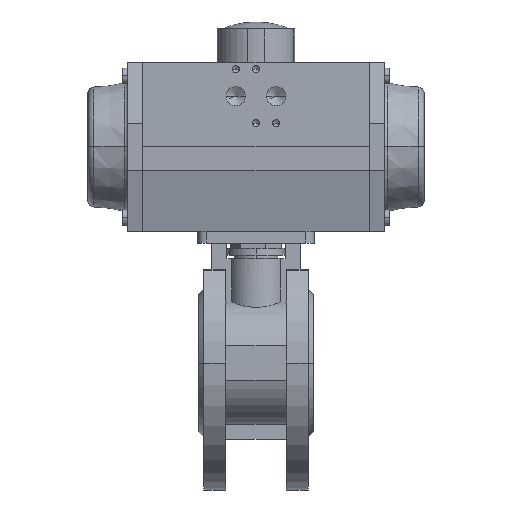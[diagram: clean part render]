
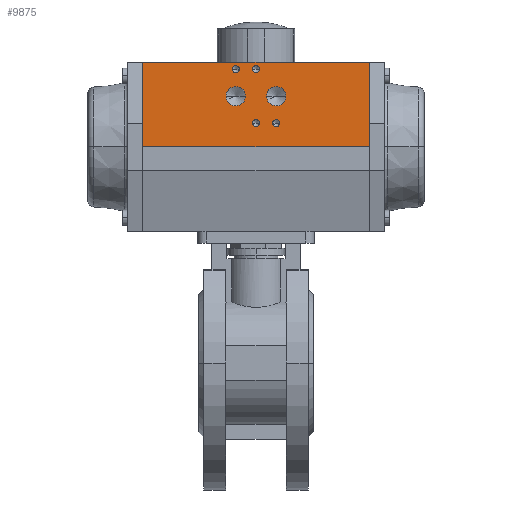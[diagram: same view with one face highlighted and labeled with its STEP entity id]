
A CAD part, top view. The second image highlights one B-rep face of the part: STEP entity #9875.
In plain terms, the highlighted planar face has unit normal (0, 0, 1) as drawn and (1, 0, 0) by its records, which use the part's own axes.
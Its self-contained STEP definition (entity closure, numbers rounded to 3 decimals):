
#696 = LINE ( 'NONE', #697, #7546 ) ;
#697 = CARTESIAN_POINT ( 'NONE',  ( 49.5, 50., -67. ) ) ;
#698 = DIRECTION ( 'NONE',  ( 0., 0., 1. ) ) ;
#701 = CARTESIAN_POINT ( 'NONE',  ( 49.5, 46., 12. ) ) ;
#702 = DIRECTION ( 'NONE',  ( 1., 0., 0. ) ) ;
#703 = DIRECTION ( 'NONE',  ( 0., 0., -1. ) ) ;
#704 = CARTESIAN_POINT ( 'NONE',  ( 49.5, 14., -12. ) ) ;
#705 = DIRECTION ( 'NONE',  ( 1., 0., 0. ) ) ;
#706 = DIRECTION ( 'NONE',  ( 0., 0., -1. ) ) ;
#707 = CARTESIAN_POINT ( 'NONE',  ( 49.5, 14., 0. ) ) ;
#708 = DIRECTION ( 'NONE',  ( 1., 0., 0. ) ) ;
#709 = DIRECTION ( 'NONE',  ( 0., 0., -1. ) ) ;
#710 = CARTESIAN_POINT ( 'NONE',  ( 49.5, 46., 0. ) ) ;
#711 = DIRECTION ( 'NONE',  ( 1., 0., 0. ) ) ;
#712 = DIRECTION ( 'NONE',  ( 0., 0., -1. ) ) ;
#713 = LINE ( 'NONE', #714, #7531 ) ;
#714 = CARTESIAN_POINT ( 'NONE',  ( 49.5, 0., 67. ) ) ;
#715 = CARTESIAN_POINT ( 'NONE',  ( 49.5, 30., -12. ) ) ;
#716 = DIRECTION ( 'NONE',  ( 1., 0., 0. ) ) ;
#717 = DIRECTION ( 'NONE',  ( 0., 0., -1. ) ) ;
#718 = LINE ( 'NONE', #728, #7529 ) ;
#719 = LINE ( 'NONE', #725, #7544 ) ;
#720 = CARTESIAN_POINT ( 'NONE',  ( 49.5, 30., 12. ) ) ;
#721 = DIRECTION ( 'NONE',  ( 1., 0., 0. ) ) ;
#722 = DIRECTION ( 'NONE',  ( 0., 0., -1. ) ) ;
#724 = DIRECTION ( 'NONE',  ( 0., 1., 0. ) ) ;
#725 = CARTESIAN_POINT ( 'NONE',  ( 49.5, 0., -67. ) ) ;
#727 = DIRECTION ( 'NONE',  ( 0., 0., 1. ) ) ;
#728 = CARTESIAN_POINT ( 'NONE',  ( 49.5, 0., -67. ) ) ;
#729 = DIRECTION ( 'NONE',  ( 0., 1., 0. ) ) ;
#1901 = FACE_BOUND ( 'NONE', #9518, .T. ) ;
#1913 = FACE_BOUND ( 'NONE', #9511, .T. ) ;
#1914 = FACE_BOUND ( 'NONE', #9512, .T. ) ;
#1915 = FACE_BOUND ( 'NONE', #9517, .T. ) ;
#2525 = ORIENTED_EDGE ( 'NONE', *, *, #10340, .T. ) ;
#2526 = ORIENTED_EDGE ( 'NONE', *, *, #10134, .F. ) ;
#2527 = ORIENTED_EDGE ( 'NONE', *, *, #10347, .F. ) ;
#2528 = ORIENTED_EDGE ( 'NONE', *, *, #10128, .F. ) ;
#2529 = ORIENTED_EDGE ( 'NONE', *, *, #10346, .F. ) ;
#2530 = ORIENTED_EDGE ( 'NONE', *, *, #10122, .F. ) ;
#2531 = ORIENTED_EDGE ( 'NONE', *, *, #10345, .F. ) ;
#2532 = ORIENTED_EDGE ( 'NONE', *, *, #10116, .F. ) ;
#2533 = ORIENTED_EDGE ( 'NONE', *, *, #10344, .F. ) ;
#2534 = ORIENTED_EDGE ( 'NONE', *, *, #10110, .F. ) ;
#2535 = ORIENTED_EDGE ( 'NONE', *, *, #10343, .F. ) ;
#2536 = ORIENTED_EDGE ( 'NONE', *, *, #10104, .F. ) ;
#2537 = ORIENTED_EDGE ( 'NONE', *, *, #10342, .F. ) ;
#5783 = VERTEX_POINT ( 'NONE', #12723 ) ;
#5784 = VERTEX_POINT ( 'NONE', #12724 ) ;
#5788 = VERTEX_POINT ( 'NONE', #12728 ) ;
#5789 = VERTEX_POINT ( 'NONE', #12729 ) ;
#5793 = VERTEX_POINT ( 'NONE', #12733 ) ;
#5794 = VERTEX_POINT ( 'NONE', #12734 ) ;
#5798 = VERTEX_POINT ( 'NONE', #12738 ) ;
#5799 = VERTEX_POINT ( 'NONE', #12739 ) ;
#5803 = VERTEX_POINT ( 'NONE', #12743 ) ;
#5804 = VERTEX_POINT ( 'NONE', #12744 ) ;
#5808 = VERTEX_POINT ( 'NONE', #12748 ) ;
#5809 = VERTEX_POINT ( 'NONE', #12749 ) ;
#6019 = VERTEX_POINT ( 'NONE', #11897 ) ;
#6021 = VERTEX_POINT ( 'NONE', #11899 ) ;
#6022 = VERTEX_POINT ( 'NONE', #11900 ) ;
#6027 = VERTEX_POINT ( 'NONE', #11905 ) ;
#6423 = CARTESIAN_POINT ( 'NONE',  ( 49.5, 46., 12. ) ) ;
#6424 = DIRECTION ( 'NONE',  ( 1., 0., 0. ) ) ;
#6425 = DIRECTION ( 'NONE',  ( 0., 0., -1. ) ) ;
#6441 = CARTESIAN_POINT ( 'NONE',  ( 49.5, 14., -12. ) ) ;
#6442 = DIRECTION ( 'NONE',  ( 1., 0., 0. ) ) ;
#6443 = DIRECTION ( 'NONE',  ( 0., 0., -1. ) ) ;
#6459 = CARTESIAN_POINT ( 'NONE',  ( 49.5, 14., 0. ) ) ;
#6460 = DIRECTION ( 'NONE',  ( 1., 0., 0. ) ) ;
#6461 = DIRECTION ( 'NONE',  ( 0., 0., -1. ) ) ;
#6477 = CARTESIAN_POINT ( 'NONE',  ( 49.5, 46., 0. ) ) ;
#6478 = DIRECTION ( 'NONE',  ( 1., 0., 0. ) ) ;
#6479 = DIRECTION ( 'NONE',  ( 0., 0., -1. ) ) ;
#6495 = CARTESIAN_POINT ( 'NONE',  ( 49.5, 30., -12. ) ) ;
#6496 = DIRECTION ( 'NONE',  ( 1., 0., 0. ) ) ;
#6497 = DIRECTION ( 'NONE',  ( 0., 0., -1. ) ) ;
#6513 = CARTESIAN_POINT ( 'NONE',  ( 49.5, 30., 12. ) ) ;
#6514 = DIRECTION ( 'NONE',  ( 1., 0., 0. ) ) ;
#6515 = DIRECTION ( 'NONE',  ( 0., 0., -1. ) ) ;
#7529 = VECTOR ( 'NONE', #729, 1000. ) ;
#7530 = AXIS2_PLACEMENT_3D ( 'NONE', #720, #721, #722 ) ;
#7531 = VECTOR ( 'NONE', #724, 1000. ) ;
#7534 = AXIS2_PLACEMENT_3D ( 'NONE', #715, #716, #717 ) ;
#7535 = CIRCLE ( 'NONE', #7530, 5.722 ) ;
#7536 = AXIS2_PLACEMENT_3D ( 'NONE', #710, #711, #712 ) ;
#7537 = CIRCLE ( 'NONE', #7534, 5.723 ) ;
#7538 = AXIS2_PLACEMENT_3D ( 'NONE', #707, #708, #709 ) ;
#7539 = CIRCLE ( 'NONE', #7536, 2.1 ) ;
#7540 = AXIS2_PLACEMENT_3D ( 'NONE', #704, #705, #706 ) ;
#7541 = CIRCLE ( 'NONE', #7538, 2.1 ) ;
#7542 = AXIS2_PLACEMENT_3D ( 'NONE', #701, #702, #703 ) ;
#7543 = CIRCLE ( 'NONE', #7540, 2.1 ) ;
#7544 = VECTOR ( 'NONE', #727, 1000. ) ;
#7545 = CIRCLE ( 'NONE', #7542, 2.1 ) ;
#7546 = VECTOR ( 'NONE', #698, 1000. ) ;
#7898 = AXIS2_PLACEMENT_3D ( 'NONE', #6513, #6514, #6515 ) ;
#7902 = CIRCLE ( 'NONE', #7898, 5.722 ) ;
#7908 = AXIS2_PLACEMENT_3D ( 'NONE', #6495, #6496, #6497 ) ;
#7915 = CIRCLE ( 'NONE', #7908, 5.723 ) ;
#7919 = AXIS2_PLACEMENT_3D ( 'NONE', #6477, #6478, #6479 ) ;
#7923 = CIRCLE ( 'NONE', #7919, 2.1 ) ;
#7927 = AXIS2_PLACEMENT_3D ( 'NONE', #6459, #6460, #6461 ) ;
#7931 = CIRCLE ( 'NONE', #7927, 2.1 ) ;
#7935 = AXIS2_PLACEMENT_3D ( 'NONE', #6441, #6442, #6443 ) ;
#7939 = CIRCLE ( 'NONE', #7935, 2.1 ) ;
#7943 = AXIS2_PLACEMENT_3D ( 'NONE', #6423, #6424, #6425 ) ;
#7947 = CIRCLE ( 'NONE', #7943, 2.1 ) ;
#9509 = EDGE_LOOP ( 'NONE', ( #2525, #11871, #11870, #11869 ) ) ;
#9510 = EDGE_LOOP ( 'NONE', ( #2533, #2532 ) ) ;
#9511 = EDGE_LOOP ( 'NONE', ( #2529, #2528 ) ) ;
#9512 = EDGE_LOOP ( 'NONE', ( #2537, #2536 ) ) ;
#9513 = EDGE_LOOP ( 'NONE', ( #2531, #2530 ) ) ;
#9517 = EDGE_LOOP ( 'NONE', ( #2527, #2526 ) ) ;
#9518 = EDGE_LOOP ( 'NONE', ( #2535, #2534 ) ) ;
#9875 = ADVANCED_FACE ( 'NONE', ( #1914, #1901, #10660, #10662, #1913, #1915, #11524 ), #10661, .T. ) ;
#10104 = EDGE_CURVE ( 'NONE', #5809, #5808, #7947, .T. ) ;
#10110 = EDGE_CURVE ( 'NONE', #5804, #5803, #7939, .T. ) ;
#10116 = EDGE_CURVE ( 'NONE', #5799, #5798, #7931, .T. ) ;
#10122 = EDGE_CURVE ( 'NONE', #5794, #5793, #7923, .T. ) ;
#10128 = EDGE_CURVE ( 'NONE', #5789, #5788, #7915, .T. ) ;
#10134 = EDGE_CURVE ( 'NONE', #5784, #5783, #7902, .T. ) ;
#10340 = EDGE_CURVE ( 'NONE', #6022, #6021, #696, .T. ) ;
#10342 = EDGE_CURVE ( 'NONE', #5808, #5809, #7545, .T. ) ;
#10343 = EDGE_CURVE ( 'NONE', #5803, #5804, #7543, .T. ) ;
#10344 = EDGE_CURVE ( 'NONE', #5798, #5799, #7541, .T. ) ;
#10345 = EDGE_CURVE ( 'NONE', #5793, #5794, #7539, .T. ) ;
#10346 = EDGE_CURVE ( 'NONE', #5788, #5789, #7537, .T. ) ;
#10347 = EDGE_CURVE ( 'NONE', #5783, #5784, #7535, .T. ) ;
#10348 = EDGE_CURVE ( 'NONE', #6019, #6021, #713, .T. ) ;
#10349 = EDGE_CURVE ( 'NONE', #6027, #6019, #719, .T. ) ;
#10350 = EDGE_CURVE ( 'NONE', #6027, #6022, #718, .T. ) ;
#10660 = FACE_BOUND ( 'NONE', #9510, .T. ) ;
#10661 = PLANE ( 'NONE',  #12870 ) ;
#10662 = FACE_BOUND ( 'NONE', #9513, .T. ) ;
#10673 = CARTESIAN_POINT ( 'NONE',  ( 49.5, 0., -67. ) ) ;
#10674 = DIRECTION ( 'NONE',  ( 1., 0., 0. ) ) ;
#10675 = DIRECTION ( 'NONE',  ( 0., 1., 0. ) ) ;
#11524 = FACE_OUTER_BOUND ( 'NONE', #9509, .T. ) ;
#11869 = ORIENTED_EDGE ( 'NONE', *, *, #10350, .T. ) ;
#11870 = ORIENTED_EDGE ( 'NONE', *, *, #10349, .F. ) ;
#11871 = ORIENTED_EDGE ( 'NONE', *, *, #10348, .F. ) ;
#11897 = CARTESIAN_POINT ( 'NONE',  ( 49.5, 0., 67. ) ) ;
#11899 = CARTESIAN_POINT ( 'NONE',  ( 49.5, 50., 67. ) ) ;
#11900 = CARTESIAN_POINT ( 'NONE',  ( 49.5, 50., -67. ) ) ;
#11905 = CARTESIAN_POINT ( 'NONE',  ( 49.5, 0., -67. ) ) ;
#12723 = CARTESIAN_POINT ( 'NONE',  ( 49.5, 30., 6.277 ) ) ;
#12724 = CARTESIAN_POINT ( 'NONE',  ( 49.5, 30., 17.722 ) ) ;
#12728 = CARTESIAN_POINT ( 'NONE',  ( 49.5, 30., -17.723 ) ) ;
#12729 = CARTESIAN_POINT ( 'NONE',  ( 49.5, 30., -6.277 ) ) ;
#12733 = CARTESIAN_POINT ( 'NONE',  ( 49.5, 46., -2.1 ) ) ;
#12734 = CARTESIAN_POINT ( 'NONE',  ( 49.5, 46., 2.1 ) ) ;
#12738 = CARTESIAN_POINT ( 'NONE',  ( 49.5, 14., -2.1 ) ) ;
#12739 = CARTESIAN_POINT ( 'NONE',  ( 49.5, 14., 2.1 ) ) ;
#12743 = CARTESIAN_POINT ( 'NONE',  ( 49.5, 14., -14.1 ) ) ;
#12744 = CARTESIAN_POINT ( 'NONE',  ( 49.5, 14., -9.9 ) ) ;
#12748 = CARTESIAN_POINT ( 'NONE',  ( 49.5, 46., 9.9 ) ) ;
#12749 = CARTESIAN_POINT ( 'NONE',  ( 49.5, 46., 14.1 ) ) ;
#12870 = AXIS2_PLACEMENT_3D ( 'NONE', #10673, #10674, #10675 ) ;
